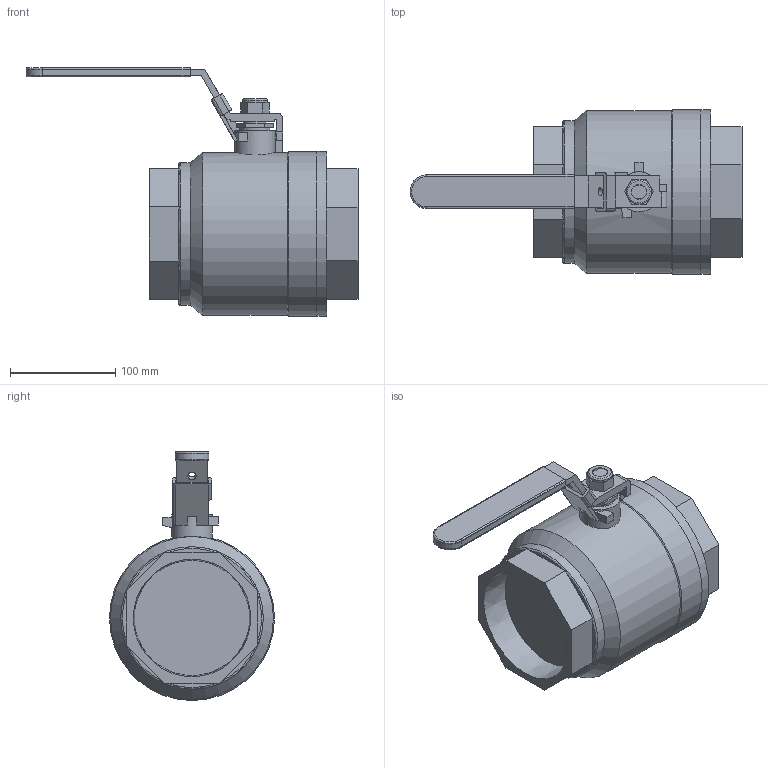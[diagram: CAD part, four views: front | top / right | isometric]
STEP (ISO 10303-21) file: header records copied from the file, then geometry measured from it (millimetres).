
FILE_DESCRIPTION(('Open CASCADE Model'),'2;1');
FILE_NAME('Open CASCADE Shape Model','2020-01-02T15:50:50',('Author'),( 'Open CASCADE'),'Open CASCADE STEP processor 7.3','Open CASCADE 7.3' ,'Unknown');
FILE_SCHEMA(('AUTOMOTIVE_DESIGN { 1 0 10303 214 1 1 1 1 }'));
Length unit declared in the file: millimetre
Products named in the file (9): Open CASCADE STEP translator 7.3 1; Open CASCADE STEP translator 7.3 1.1; Open CASCADE STEP translator 7.3 1.2; Open CASCADE STEP translator 7.3 1.3; Open CASCADE STEP translator 7.3 1.4; Open CASCADE STEP translator 7.3 1.5; Open CASCADE STEP translator 7.3 1.6; Open CASCADE STEP translator 7.3 1.7; Open CASCADE STEP translator 7.3 1.8
Assembly tree (8 placements, depth 2):
  Open CASCADE STEP translator 7.3 1
    Open CASCADE STEP translator 7.3 1.1
    Open CASCADE STEP translator 7.3 1.2
    Open CASCADE STEP translator 7.3 1.3
    Open CASCADE STEP translator 7.3 1.4
    Open CASCADE STEP translator 7.3 1.5
    Open CASCADE STEP translator 7.3 1.6
    Open CASCADE STEP translator 7.3 1.7
    Open CASCADE STEP translator 7.3 1.8
Bounding box: 315.15 x 156.59 x 236.27 mm (x, y, z)
Volume: 2920828.8 mm3; surface area: 232120.1 mm2
Topology: 8 solids, 8 shells, 155 faces, 384 edges, 252 vertices
Faces by surface type: plane 120, cylinder 27, torus 4, cone 4
Full cylindrical faces by diameter (mm): 8.001 x1, 14.224 x1, 21.844 x1, 23.749 x1, 28.321 x1, 38.1 x1, 135.382 x1, 154.559 x1, 156.591 x2
Entity records: 11639 total; most frequent: CARTESIAN_POINT 3733, DIRECTION 1462, LINE 923, VECTOR 923, ORIENTED_EDGE 768, PCURVE 768, DEFINITIONAL_REPRESENTATION 768, EDGE_CURVE 384
